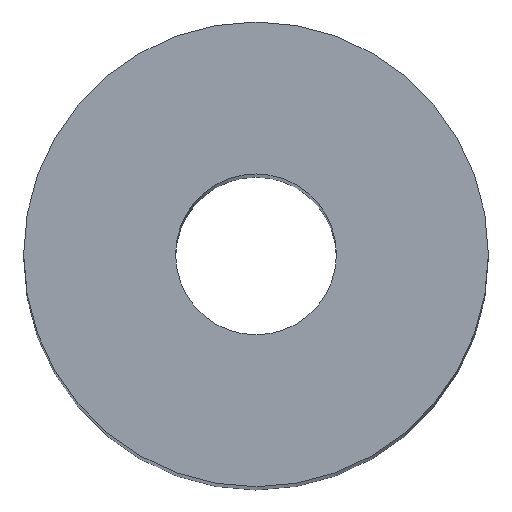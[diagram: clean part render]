
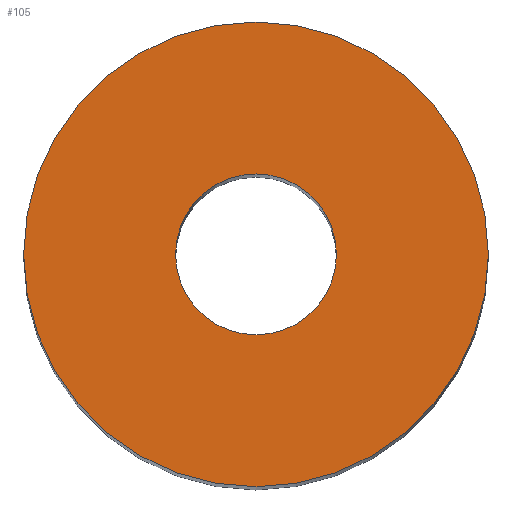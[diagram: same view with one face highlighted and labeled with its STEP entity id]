
A CAD part, top view. The second image highlights one B-rep face of the part: STEP entity #105.
In plain terms, the highlighted planar face has unit normal (0, 0, 1).
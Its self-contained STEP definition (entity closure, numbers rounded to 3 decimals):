
#21 = EDGE_CURVE('',#22,#22,#24,.T.);
#22 = VERTEX_POINT('',#23);
#23 = CARTESIAN_POINT('',(6.5,0.,51.938));
#24 = SURFACE_CURVE('',#25,(#30,#42),.PCURVE_S1.);
#25 = CIRCLE('',#26,6.5);
#26 = AXIS2_PLACEMENT_3D('',#27,#28,#29);
#27 = CARTESIAN_POINT('',(0.,0.,51.938));
#28 = DIRECTION('',(0.,0.,1.));
#29 = DIRECTION('',(1.,0.,-0.));
#30 = PCURVE('',#31,#36);
#31 = CYLINDRICAL_SURFACE('',#32,6.5);
#32 = AXIS2_PLACEMENT_3D('',#33,#34,#35);
#33 = CARTESIAN_POINT('',(0.,0.,0.));
#34 = DIRECTION('',(0.,0.,1.));
#35 = DIRECTION('',(1.,0.,-0.));
#36 = DEFINITIONAL_REPRESENTATION('',(#37),#41);
#37 = LINE('',#38,#39);
#38 = CARTESIAN_POINT('',(0.,51.938));
#39 = VECTOR('',#40,1.);
#40 = DIRECTION('',(1.,0.));
#41 = ( GEOMETRIC_REPRESENTATION_CONTEXT(2) 
PARAMETRIC_REPRESENTATION_CONTEXT() REPRESENTATION_CONTEXT('2D SPACE',''
  ) );
#42 = PCURVE('',#43,#48);
#43 = PLANE('',#44);
#44 = AXIS2_PLACEMENT_3D('',#45,#46,#47);
#45 = CARTESIAN_POINT('',(0.,0.,51.938));
#46 = DIRECTION('',(0.,0.,1.));
#47 = DIRECTION('',(1.,0.,-0.));
#48 = DEFINITIONAL_REPRESENTATION('',(#49),#53);
#49 = CIRCLE('',#50,6.5);
#50 = AXIS2_PLACEMENT_2D('',#51,#52);
#51 = CARTESIAN_POINT('',(0.,0.));
#52 = DIRECTION('',(1.,0.));
#53 = ( GEOMETRIC_REPRESENTATION_CONTEXT(2) 
PARAMETRIC_REPRESENTATION_CONTEXT() REPRESENTATION_CONTEXT('2D SPACE',''
  ) );
#105 = ADVANCED_FACE('',(#106,#109),#43,.T.);
#106 = FACE_BOUND('',#107,.T.);
#107 = EDGE_LOOP('',(#108));
#108 = ORIENTED_EDGE('',*,*,#21,.T.);
#109 = FACE_BOUND('',#110,.T.);
#110 = EDGE_LOOP('',(#111));
#111 = ORIENTED_EDGE('',*,*,#112,.F.);
#112 = EDGE_CURVE('',#113,#113,#115,.T.);
#113 = VERTEX_POINT('',#114);
#114 = CARTESIAN_POINT('',(2.25,0.,51.938));
#115 = SURFACE_CURVE('',#116,(#121,#128),.PCURVE_S1.);
#116 = CIRCLE('',#117,2.25);
#117 = AXIS2_PLACEMENT_3D('',#118,#119,#120);
#118 = CARTESIAN_POINT('',(0.,0.,51.938));
#119 = DIRECTION('',(0.,0.,1.));
#120 = DIRECTION('',(1.,0.,-0.));
#121 = PCURVE('',#43,#122);
#122 = DEFINITIONAL_REPRESENTATION('',(#123),#127);
#123 = CIRCLE('',#124,2.25);
#124 = AXIS2_PLACEMENT_2D('',#125,#126);
#125 = CARTESIAN_POINT('',(0.,0.));
#126 = DIRECTION('',(1.,0.));
#127 = ( GEOMETRIC_REPRESENTATION_CONTEXT(2) 
PARAMETRIC_REPRESENTATION_CONTEXT() REPRESENTATION_CONTEXT('2D SPACE',''
  ) );
#128 = PCURVE('',#129,#134);
#129 = CYLINDRICAL_SURFACE('',#130,2.25);
#130 = AXIS2_PLACEMENT_3D('',#131,#132,#133);
#131 = CARTESIAN_POINT('',(0.,0.,-1.));
#132 = DIRECTION('',(0.,0.,1.));
#133 = DIRECTION('',(1.,0.,-0.));
#134 = DEFINITIONAL_REPRESENTATION('',(#135),#139);
#135 = LINE('',#136,#137);
#136 = CARTESIAN_POINT('',(0.,52.938));
#137 = VECTOR('',#138,1.);
#138 = DIRECTION('',(1.,0.));
#139 = ( GEOMETRIC_REPRESENTATION_CONTEXT(2) 
PARAMETRIC_REPRESENTATION_CONTEXT() REPRESENTATION_CONTEXT('2D SPACE',''
  ) );
